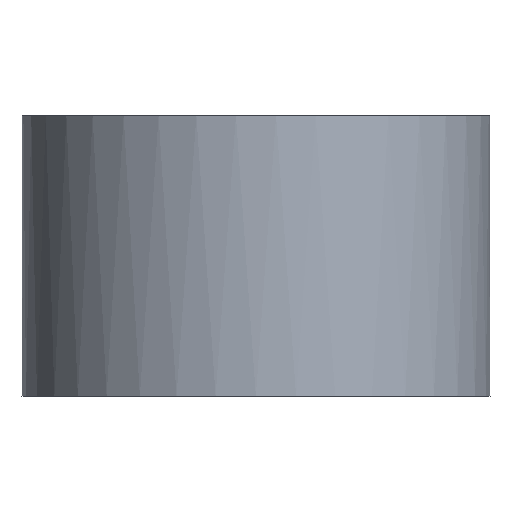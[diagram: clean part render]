
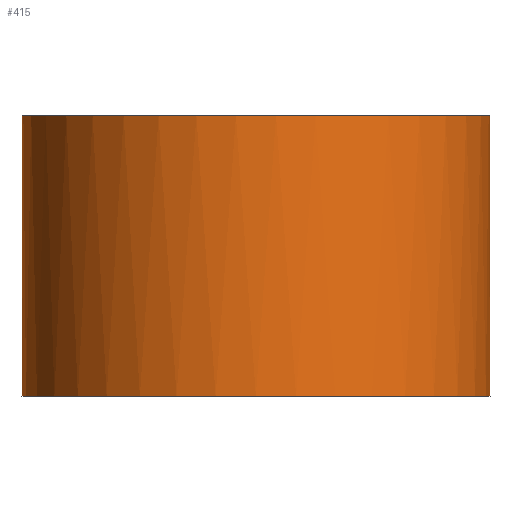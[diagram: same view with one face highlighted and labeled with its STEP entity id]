
A CAD part, left-side view. The second image highlights one B-rep face of the part: STEP entity #415.
In plain terms, the highlighted cylindrical face has radius 7.5 mm (diameter 15 mm), a partial arc.
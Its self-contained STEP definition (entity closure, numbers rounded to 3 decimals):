
#18=CYLINDRICAL_SURFACE('',#448,7.5);
#43=FACE_OUTER_BOUND('',#70,.T.);
#70=EDGE_LOOP('',(#347,#348,#349,#350,#351,#352,#353,#354));
#77=CIRCLE('',#423,7.5);
#79=CIRCLE('',#426,7.5);
#80=CIRCLE('',#428,7.5);
#86=CIRCLE('',#449,7.5);
#118=LINE('',#652,#163);
#124=LINE('',#664,#169);
#125=LINE('',#668,#170);
#126=LINE('',#669,#171);
#163=VECTOR('',#533,10.);
#169=VECTOR('',#545,10.);
#170=VECTOR('',#550,10.);
#171=VECTOR('',#551,10.);
#178=VERTEX_POINT('',#568);
#179=VERTEX_POINT('',#570);
#181=VERTEX_POINT('',#576);
#182=VERTEX_POINT('',#577);
#185=VERTEX_POINT('',#585);
#186=VERTEX_POINT('',#586);
#211=VERTEX_POINT('',#662);
#212=VERTEX_POINT('',#666);
#216=EDGE_CURVE('',#178,#179,#77,.T.);
#219=EDGE_CURVE('',#181,#182,#79,.T.);
#223=EDGE_CURVE('',#185,#186,#80,.T.);
#255=EDGE_CURVE('',#186,#178,#118,.T.);
#261=EDGE_CURVE('',#185,#211,#124,.T.);
#262=EDGE_CURVE('',#212,#211,#86,.T.);
#263=EDGE_CURVE('',#182,#212,#125,.T.);
#264=EDGE_CURVE('',#181,#179,#126,.T.);
#347=ORIENTED_EDGE('',*,*,#261,.T.);
#348=ORIENTED_EDGE('',*,*,#262,.F.);
#349=ORIENTED_EDGE('',*,*,#263,.F.);
#350=ORIENTED_EDGE('',*,*,#219,.F.);
#351=ORIENTED_EDGE('',*,*,#264,.T.);
#352=ORIENTED_EDGE('',*,*,#216,.F.);
#353=ORIENTED_EDGE('',*,*,#255,.F.);
#354=ORIENTED_EDGE('',*,*,#223,.F.);
#415=ADVANCED_FACE('',(#43),#18,.T.);
#423=AXIS2_PLACEMENT_3D('',#571,#459,#460);
#426=AXIS2_PLACEMENT_3D('',#578,#466,#467);
#428=AXIS2_PLACEMENT_3D('',#587,#473,#474);
#448=AXIS2_PLACEMENT_3D('',#665,#546,#547);
#449=AXIS2_PLACEMENT_3D('',#667,#548,#549);
#459=DIRECTION('center_axis',(0.,0.,-1.));
#460=DIRECTION('ref_axis',(0.98,-0.201,0.));
#466=DIRECTION('center_axis',(0.,0.,1.));
#467=DIRECTION('ref_axis',(0.98,-0.201,0.));
#473=DIRECTION('center_axis',(0.,0.,1.));
#474=DIRECTION('ref_axis',(0.98,-0.201,0.));
#533=DIRECTION('',(0.,0.,-1.));
#545=DIRECTION('',(0.,0.,1.));
#546=DIRECTION('center_axis',(0.,0.,1.));
#547=DIRECTION('ref_axis',(-0.68,-0.733,0.));
#548=DIRECTION('center_axis',(0.,0.,1.));
#549=DIRECTION('ref_axis',(-0.68,-0.733,0.));
#550=DIRECTION('',(0.,0.,1.));
#551=DIRECTION('',(0.,0.,-1.));
#568=CARTESIAN_POINT('',(7.347,-1.509,-1.));
#570=CARTESIAN_POINT('',(7.348,1.5,-1.));
#571=CARTESIAN_POINT('Origin',(0.,0.,-1.));
#576=CARTESIAN_POINT('',(7.348,1.5,0.));
#577=CARTESIAN_POINT('',(5.099,5.5,0.));
#578=CARTESIAN_POINT('Origin',(0.,0.,0.));
#585=CARTESIAN_POINT('',(5.099,-5.5,0.));
#586=CARTESIAN_POINT('',(7.347,-1.509,0.));
#587=CARTESIAN_POINT('Origin',(0.,0.,0.));
#652=CARTESIAN_POINT('',(7.347,-1.509,0.));
#662=CARTESIAN_POINT('',(5.099,-5.5,8.));
#664=CARTESIAN_POINT('',(5.099,-5.5,0.));
#665=CARTESIAN_POINT('Origin',(0.,0.,0.));
#666=CARTESIAN_POINT('',(5.099,5.5,8.));
#667=CARTESIAN_POINT('Origin',(0.,0.,8.));
#668=CARTESIAN_POINT('',(5.099,5.5,0.));
#669=CARTESIAN_POINT('',(7.348,1.5,0.));
